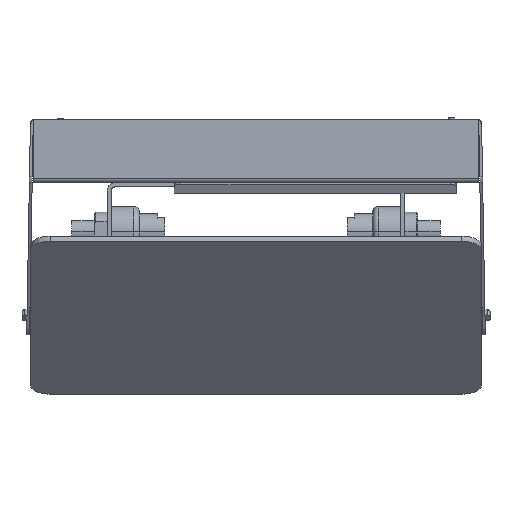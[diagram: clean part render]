
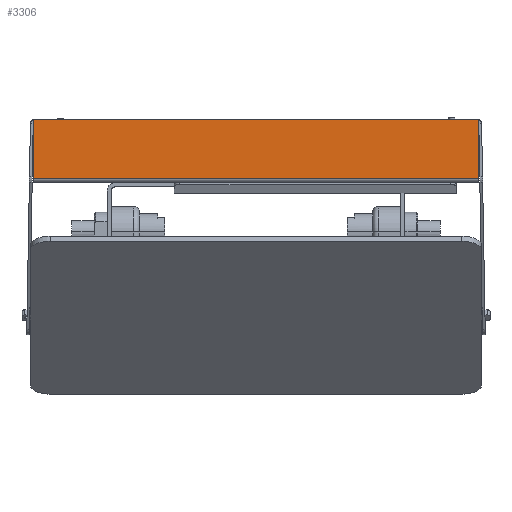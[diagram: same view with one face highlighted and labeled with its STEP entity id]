
A CAD part, top view. The second image highlights one B-rep face of the part: STEP entity #3306.
In plain terms, the highlighted planar face has unit normal (0, 0, 1).
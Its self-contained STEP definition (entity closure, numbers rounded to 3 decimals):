
#573 = CARTESIAN_POINT ( 'NONE',  ( 79., -0.5, 36.5 ) ) ;
#588 = CARTESIAN_POINT ( 'NONE',  ( -79., -0.5, 36.5 ) ) ;
#592 = CARTESIAN_POINT ( 'NONE',  ( -79., -21.429, 36.5 ) ) ;
#593 = CARTESIAN_POINT ( 'NONE',  ( 79., -21.429, 36.5 ) ) ;
#3136 = DIRECTION ( 'NONE',  ( -1., 0., 0. ) ) ;
#3140 = CARTESIAN_POINT ( 'NONE',  ( -152.143, -0.5, 36.5 ) ) ;
#3151 = CARTESIAN_POINT ( 'NONE',  ( -152.143, -21.429, 36.5 ) ) ;
#3152 = DIRECTION ( 'NONE',  ( 1., 0., 0. ) ) ;
#3155 = CARTESIAN_POINT ( 'NONE',  ( 79., 36.071, 36.5 ) ) ;
#3156 = DIRECTION ( 'NONE',  ( 0., -1., 0. ) ) ;
#3157 = CARTESIAN_POINT ( 'NONE',  ( -79., 36.071, 36.5 ) ) ;
#3158 = DIRECTION ( 'NONE',  ( 0., -1., 0. ) ) ;
#3306 = ADVANCED_FACE ( 'NONE', ( #8972 ), #8863, .T. ) ;
#3687 = EDGE_CURVE ( 'NONE', #6521, #6536, #9533, .T. ) ;
#3691 = EDGE_CURVE ( 'NONE', #6540, #6541, #9540, .T. ) ;
#3693 = EDGE_CURVE ( 'NONE', #6521, #6541, #9544, .T. ) ;
#3694 = EDGE_CURVE ( 'NONE', #6536, #6540, #9546, .T. ) ;
#4328 = ORIENTED_EDGE ( 'NONE', *, *, #3693, .F. ) ;
#4329 = ORIENTED_EDGE ( 'NONE', *, *, #3687, .T. ) ;
#4330 = ORIENTED_EDGE ( 'NONE', *, *, #3694, .T. ) ;
#4331 = ORIENTED_EDGE ( 'NONE', *, *, #3691, .T. ) ;
#6521 = VERTEX_POINT ( 'NONE', #573 ) ;
#6536 = VERTEX_POINT ( 'NONE', #588 ) ;
#6540 = VERTEX_POINT ( 'NONE', #592 ) ;
#6541 = VERTEX_POINT ( 'NONE', #593 ) ;
#6673 = EDGE_LOOP ( 'NONE', ( #4328, #4329, #4330, #4331 ) ) ;
#8859 = CARTESIAN_POINT ( 'NONE',  ( -152.143, 36.071, 36.5 ) ) ;
#8863 = PLANE ( 'NONE',  #9551 ) ;
#8865 = DIRECTION ( 'NONE',  ( 0., 0., 1. ) ) ;
#8866 = DIRECTION ( 'NONE',  ( 0., -1., 0. ) ) ;
#8972 = FACE_OUTER_BOUND ( 'NONE', #6673, .T. ) ;
#9533 = LINE ( 'NONE', #3140, #9535 ) ;
#9535 = VECTOR ( 'NONE', #3136, 1000. ) ;
#9540 = LINE ( 'NONE', #3151, #9543 ) ;
#9543 = VECTOR ( 'NONE', #3152, 1000. ) ;
#9544 = LINE ( 'NONE', #3155, #9547 ) ;
#9546 = LINE ( 'NONE', #3157, #9549 ) ;
#9547 = VECTOR ( 'NONE', #3156, 1000. ) ;
#9549 = VECTOR ( 'NONE', #3158, 1000. ) ;
#9551 = AXIS2_PLACEMENT_3D ( 'NONE', #8859, #8865, #8866 ) ;
